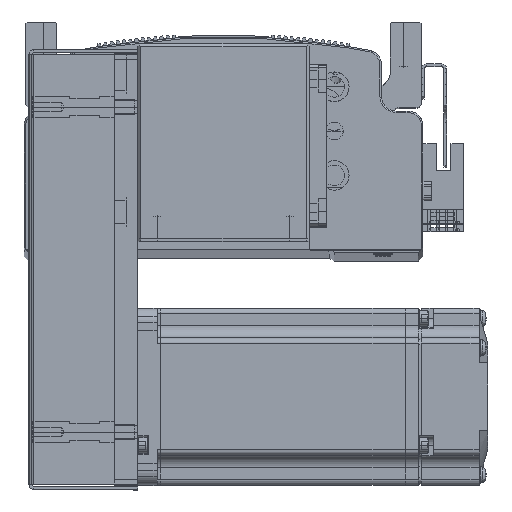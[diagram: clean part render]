
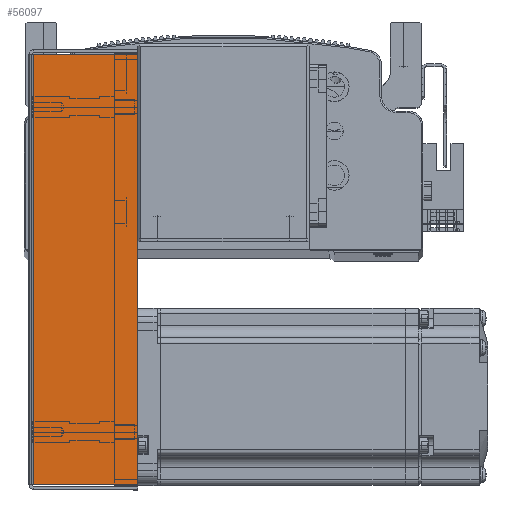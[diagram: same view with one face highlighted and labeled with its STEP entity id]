
A CAD part, top view. The second image highlights one B-rep face of the part: STEP entity #56097.
In plain terms, the highlighted planar face has unit normal (0, 0, 1) as drawn and (0, 0, -1) by its records, which use the part's own axes.
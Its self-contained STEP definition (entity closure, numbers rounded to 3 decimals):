
#1991 = CARTESIAN_POINT ( 'NONE',  ( -72.793, 0.737, -34.5 ) ) ;
#1992 = CARTESIAN_POINT ( 'NONE',  ( -72.793, 36., -34.5 ) ) ;
#2021 = CARTESIAN_POINT ( 'NONE',  ( 72.793, 0.737, -34.5 ) ) ;
#2035 = CARTESIAN_POINT ( 'NONE',  ( 72.793, 36., -34.5 ) ) ;
#31938 = CARTESIAN_POINT ( 'NONE',  ( 74.5, 0.737, -34.5 ) ) ;
#31972 = DIRECTION ( 'NONE',  ( 1., 0., 0. ) ) ;
#39622 = EDGE_LOOP ( 'NONE', ( #82773, #82859, #82913, #82762 ) ) ;
#41463 = AXIS2_PLACEMENT_3D ( 'NONE', #56805, #56838, #56858 ) ;
#45311 = VECTOR ( 'NONE', #31972, 1000. ) ;
#45364 = LINE ( 'NONE', #31938, #45311 ) ;
#53076 = FACE_OUTER_BOUND ( 'NONE', #39622, .T. ) ;
#56097 = ADVANCED_FACE ( 'NONE', ( #53076 ), #56800, .F. ) ;
#56800 = PLANE ( 'NONE',  #41463 ) ;
#56805 = CARTESIAN_POINT ( 'NONE',  ( 0., 0., -34.5 ) ) ;
#56838 = DIRECTION ( 'NONE',  ( 0., 0., 1. ) ) ;
#56858 = DIRECTION ( 'NONE',  ( 0., -1., 0. ) ) ;
#69225 = DIRECTION ( 'NONE',  ( 0., 1., 0. ) ) ;
#69229 = CARTESIAN_POINT ( 'NONE',  ( -72.793, 0., -34.5 ) ) ;
#71022 = LINE ( 'NONE', #77292, #71034 ) ;
#71028 = LINE ( 'NONE', #77279, #71037 ) ;
#71034 = VECTOR ( 'NONE', #77273, 1000. ) ;
#71037 = VECTOR ( 'NONE', #77296, 1000. ) ;
#71067 = VECTOR ( 'NONE', #69225, 1000. ) ;
#71080 = LINE ( 'NONE', #69229, #71067 ) ;
#73650 = VERTEX_POINT ( 'NONE', #2035 ) ;
#73661 = VERTEX_POINT ( 'NONE', #1991 ) ;
#73742 = VERTEX_POINT ( 'NONE', #2021 ) ;
#73758 = VERTEX_POINT ( 'NONE', #1992 ) ;
#77273 = DIRECTION ( 'NONE',  ( 1., 0., 0. ) ) ;
#77279 = CARTESIAN_POINT ( 'NONE',  ( 72.793, 0., -34.5 ) ) ;
#77292 = CARTESIAN_POINT ( 'NONE',  ( 0., 36., -34.5 ) ) ;
#77296 = DIRECTION ( 'NONE',  ( 0., 1., 0. ) ) ;
#80738 = EDGE_CURVE ( 'NONE', #73742, #73650, #71028, .T. ) ;
#80740 = EDGE_CURVE ( 'NONE', #73758, #73650, #71022, .T. ) ;
#80769 = EDGE_CURVE ( 'NONE', #73661, #73758, #71080, .T. ) ;
#82762 = ORIENTED_EDGE ( 'NONE', *, *, #80738, .F. ) ;
#82773 = ORIENTED_EDGE ( 'NONE', *, *, #86732, .F. ) ;
#82859 = ORIENTED_EDGE ( 'NONE', *, *, #80769, .T. ) ;
#82913 = ORIENTED_EDGE ( 'NONE', *, *, #80740, .T. ) ;
#86732 = EDGE_CURVE ( 'NONE', #73661, #73742, #45364, .T. ) ;
